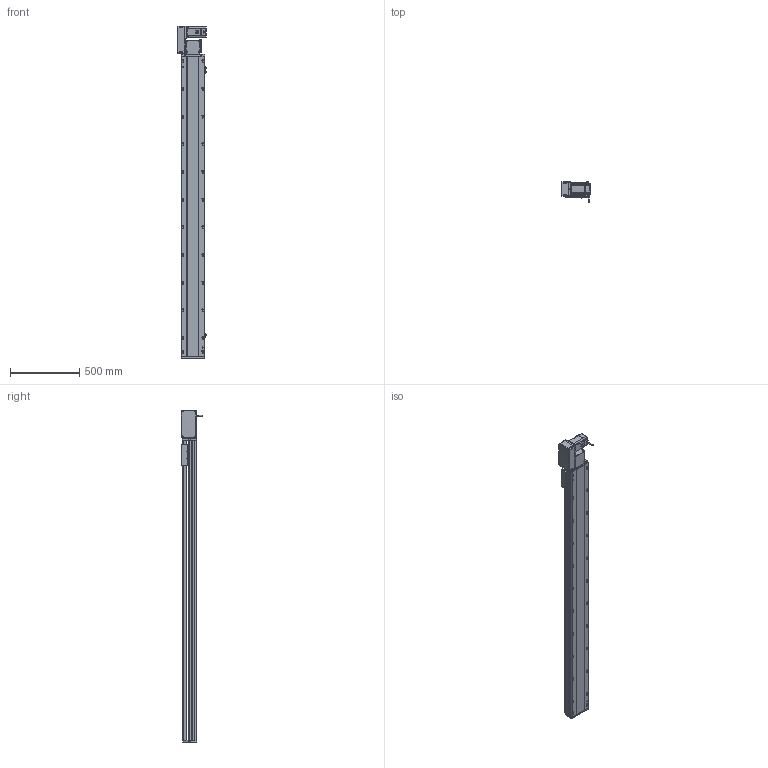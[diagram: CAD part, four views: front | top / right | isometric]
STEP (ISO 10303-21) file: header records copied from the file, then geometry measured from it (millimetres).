
FILE_DESCRIPTION (( 'STEP AP214' ), '1' );
FILE_NAME ('RTB17S-XX-1900-L-M75-C4.STEP', '2025-12-12T00:18:10', ( '' ), ( '' ), 'SwSTEP 2.0', 'SolidWorks 2018', '' );
FILE_SCHEMA (( 'AUTOMOTIVE_DESIGN' ));
Length unit declared in the file: millimetre
Products named in the file (15): RTB22S-GY-005P^RTB17S-L-々湍釱蚾饜-750W_RTB17S-XX-XX-L-M75-C4; RTH13-BL-012覜茼え俋离^RTB17S-賑釱_RTB17S-XX-XX-L-M75-C4; RTB17S-XX-1900-L-M75-C4; RTB17-R-011菁釱^RTB17S-XX-XX-L-M75-C4; RTB17S-L-004-賑釱^RTB17S-賑釱_RTB17S-XX-XX-L-M75-C4; RTB17S-賑釱^RTB17S-XX-XX-L-M75-C4; RTB22S-GY-008-M75--萇儂啣^RTB17S-L-々湍釱蚾饜-750W_RTB17S-XX-XX-L-M75-C4; RTB17S-L-々湍釱蚾饜-750W^RTB17S-XX-XX-L-M75-C4; RTB22S-GY-017P^RTB17S-L-々湍釱蚾饜-750W_RTB17S-XX-XX-L-M75-C4; RTB17S-L-001-耜醱啣^RTB17S-XX-XX-L-M75-C4; RMP17S-L-014-T20-P75--々湍釱^RTB17S-L-々湍釱蚾饜-750W_RTB17S-XX-XX-L-M75-C4; RTB22S-GY-018P^RTB17S-L-々湍釱蚾饜-750W_RTB17S-XX-XX-L-M75-C4; RTB17S-L-007奻裔^RTB17S-XX-XX-L-M75-C4; EE672^RTB17S-XX-XX-L-M75-C4; 750W萇儂^RTB17S-XX-XX-L-M75-C4
Assembly tree (17 placements, depth 3):
  RTB17S-XX-1900-L-M75-C4
    RTB17-R-011菁釱^RTB17S-XX-XX-L-M75-C4
    EE672^RTB17S-XX-XX-L-M75-C4  x3
    RTB17S-L-001-耜醱啣^RTB17S-XX-XX-L-M75-C4
    RTB17S-賑釱^RTB17S-XX-XX-L-M75-C4
      RTB17S-L-004-賑釱^RTB17S-賑釱_RTB17S-XX-XX-L-M75-C4
      RTH13-BL-012覜茼え俋离^RTB17S-賑釱_RTB17S-XX-XX-L-M75-C4
    RTB17S-L-007奻裔^RTB17S-XX-XX-L-M75-C4
    750W萇儂^RTB17S-XX-XX-L-M75-C4
    RTB17S-L-々湍釱蚾饜-750W^RTB17S-XX-XX-L-M75-C4
      RMP17S-L-014-T20-P75--々湍釱^RTB17S-L-々湍釱蚾饜-750W_RTB17S-XX-XX-L-M75-C4
      RTB22S-GY-005P^RTB17S-L-々湍釱蚾饜-750W_RTB17S-XX-XX-L-M75-C4
      RTB22S-GY-017P^RTB17S-L-々湍釱蚾饜-750W_RTB17S-XX-XX-L-M75-C4  x2
      RTB22S-GY-008-M75--萇儂啣^RTB17S-L-々湍釱蚾饜-750W_RTB17S-XX-XX-L-M75-C4
      RTB22S-GY-018P^RTB17S-L-々湍釱蚾饜-750W_RTB17S-XX-XX-L-M75-C4
Bounding box: 210.4 x 152.7 x 2399 mm (x, y, z)
Volume: 17824560.9 mm3; surface area: 3177314.7 mm2
Topology: 17 solids, 17 shells, 2169 faces, 6052 edges, 3914 vertices
Faces by surface type: plane 980, cylinder 773, bspline 294, cone 110, sphere 8, torus 4
Entity records: 61942 total; most frequent: CARTESIAN_POINT 18316, ORIENTED_EDGE 8948, DIRECTION 8312, EDGE_CURVE 4474, AXIS2_PLACEMENT_3D 2934, VERTEX_POINT 2918, VECTOR 2444, LINE 2444
